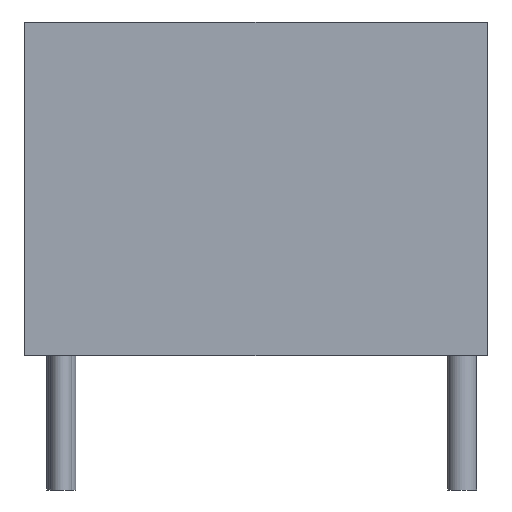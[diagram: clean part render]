
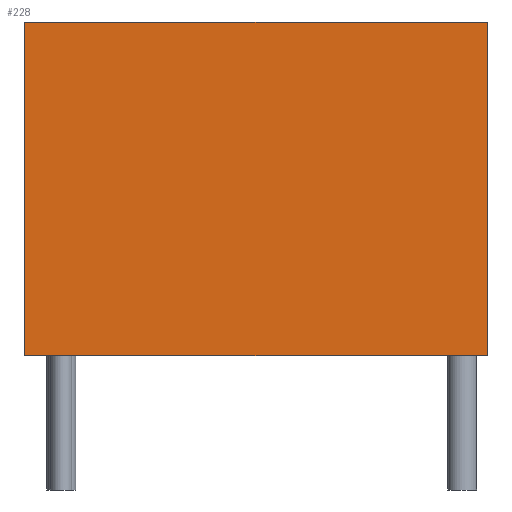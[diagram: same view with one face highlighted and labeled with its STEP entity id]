
A CAD part, front view. The second image highlights one B-rep face of the part: STEP entity #228.
In plain terms, the highlighted planar face has unit normal (0, -1, 0).
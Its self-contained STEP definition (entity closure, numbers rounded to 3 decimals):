
#59 = PLANE('',#60);
#60 = AXIS2_PLACEMENT_3D('',#61,#62,#63);
#61 = CARTESIAN_POINT('',(-1.4,-1.25,0.));
#62 = DIRECTION('',(-1.,0.,0.));
#63 = DIRECTION('',(0.,1.,0.));
#87 = PLANE('',#88);
#88 = AXIS2_PLACEMENT_3D('',#89,#90,#91);
#89 = CARTESIAN_POINT('',(7.4,3.8,12.7));
#90 = DIRECTION('',(-0.,-0.,-1.));
#91 = DIRECTION('',(-1.,0.,0.));
#115 = PLANE('',#116);
#116 = AXIS2_PLACEMENT_3D('',#117,#118,#119);
#117 = CARTESIAN_POINT('',(16.2,8.85,0.));
#118 = DIRECTION('',(1.,0.,-0.));
#119 = DIRECTION('',(0.,-1.,0.));
#141 = PLANE('',#142);
#142 = AXIS2_PLACEMENT_3D('',#143,#144,#145);
#143 = CARTESIAN_POINT('',(7.4,3.8,0.));
#144 = DIRECTION('',(-0.,-0.,-1.));
#145 = DIRECTION('',(-1.,0.,0.));
#158 = VERTEX_POINT('',#159);
#159 = CARTESIAN_POINT('',(16.2,-1.25,12.7));
#180 = EDGE_CURVE('',#181,#158,#183,.T.);
#181 = VERTEX_POINT('',#182);
#182 = CARTESIAN_POINT('',(16.2,-1.25,0.));
#183 = SURFACE_CURVE('',#184,(#188,#195),.PCURVE_S1.);
#184 = LINE('',#185,#186);
#185 = CARTESIAN_POINT('',(16.2,-1.25,0.));
#186 = VECTOR('',#187,1.);
#187 = DIRECTION('',(0.,0.,1.));
#188 = PCURVE('',#115,#189);
#189 = DEFINITIONAL_REPRESENTATION('',(#190),#194);
#190 = LINE('',#191,#192);
#191 = CARTESIAN_POINT('',(10.1,0.));
#192 = VECTOR('',#193,1.);
#193 = DIRECTION('',(0.,-1.));
#194 = ( GEOMETRIC_REPRESENTATION_CONTEXT(2) 
PARAMETRIC_REPRESENTATION_CONTEXT() REPRESENTATION_CONTEXT('2D SPACE',''
  ) );
#195 = PCURVE('',#196,#201);
#196 = PLANE('',#197);
#197 = AXIS2_PLACEMENT_3D('',#198,#199,#200);
#198 = CARTESIAN_POINT('',(16.2,-1.25,0.));
#199 = DIRECTION('',(0.,-1.,0.));
#200 = DIRECTION('',(-1.,0.,0.));
#201 = DEFINITIONAL_REPRESENTATION('',(#202),#206);
#202 = LINE('',#203,#204);
#203 = CARTESIAN_POINT('',(0.,-0.));
#204 = VECTOR('',#205,1.);
#205 = DIRECTION('',(0.,-1.));
#206 = ( GEOMETRIC_REPRESENTATION_CONTEXT(2) 
PARAMETRIC_REPRESENTATION_CONTEXT() REPRESENTATION_CONTEXT('2D SPACE',''
  ) );
#228 = ADVANCED_FACE('',(#229),#196,.T.);
#229 = FACE_BOUND('',#230,.T.);
#230 = EDGE_LOOP('',(#231,#232,#255,#278));
#231 = ORIENTED_EDGE('',*,*,#180,.T.);
#232 = ORIENTED_EDGE('',*,*,#233,.T.);
#233 = EDGE_CURVE('',#158,#234,#236,.T.);
#234 = VERTEX_POINT('',#235);
#235 = CARTESIAN_POINT('',(-1.4,-1.25,12.7));
#236 = SURFACE_CURVE('',#237,(#241,#248),.PCURVE_S1.);
#237 = LINE('',#238,#239);
#238 = CARTESIAN_POINT('',(16.2,-1.25,12.7));
#239 = VECTOR('',#240,1.);
#240 = DIRECTION('',(-1.,0.,0.));
#241 = PCURVE('',#196,#242);
#242 = DEFINITIONAL_REPRESENTATION('',(#243),#247);
#243 = LINE('',#244,#245);
#244 = CARTESIAN_POINT('',(0.,-12.7));
#245 = VECTOR('',#246,1.);
#246 = DIRECTION('',(1.,0.));
#247 = ( GEOMETRIC_REPRESENTATION_CONTEXT(2) 
PARAMETRIC_REPRESENTATION_CONTEXT() REPRESENTATION_CONTEXT('2D SPACE',''
  ) );
#248 = PCURVE('',#87,#249);
#249 = DEFINITIONAL_REPRESENTATION('',(#250),#254);
#250 = LINE('',#251,#252);
#251 = CARTESIAN_POINT('',(-8.8,-5.05));
#252 = VECTOR('',#253,1.);
#253 = DIRECTION('',(1.,0.));
#254 = ( GEOMETRIC_REPRESENTATION_CONTEXT(2) 
PARAMETRIC_REPRESENTATION_CONTEXT() REPRESENTATION_CONTEXT('2D SPACE',''
  ) );
#255 = ORIENTED_EDGE('',*,*,#256,.F.);
#256 = EDGE_CURVE('',#257,#234,#259,.T.);
#257 = VERTEX_POINT('',#258);
#258 = CARTESIAN_POINT('',(-1.4,-1.25,0.));
#259 = SURFACE_CURVE('',#260,(#264,#271),.PCURVE_S1.);
#260 = LINE('',#261,#262);
#261 = CARTESIAN_POINT('',(-1.4,-1.25,0.));
#262 = VECTOR('',#263,1.);
#263 = DIRECTION('',(0.,0.,1.));
#264 = PCURVE('',#196,#265);
#265 = DEFINITIONAL_REPRESENTATION('',(#266),#270);
#266 = LINE('',#267,#268);
#267 = CARTESIAN_POINT('',(17.6,0.));
#268 = VECTOR('',#269,1.);
#269 = DIRECTION('',(0.,-1.));
#270 = ( GEOMETRIC_REPRESENTATION_CONTEXT(2) 
PARAMETRIC_REPRESENTATION_CONTEXT() REPRESENTATION_CONTEXT('2D SPACE',''
  ) );
#271 = PCURVE('',#59,#272);
#272 = DEFINITIONAL_REPRESENTATION('',(#273),#277);
#273 = LINE('',#274,#275);
#274 = CARTESIAN_POINT('',(0.,0.));
#275 = VECTOR('',#276,1.);
#276 = DIRECTION('',(0.,-1.));
#277 = ( GEOMETRIC_REPRESENTATION_CONTEXT(2) 
PARAMETRIC_REPRESENTATION_CONTEXT() REPRESENTATION_CONTEXT('2D SPACE',''
  ) );
#278 = ORIENTED_EDGE('',*,*,#279,.F.);
#279 = EDGE_CURVE('',#181,#257,#280,.T.);
#280 = SURFACE_CURVE('',#281,(#285,#292),.PCURVE_S1.);
#281 = LINE('',#282,#283);
#282 = CARTESIAN_POINT('',(16.2,-1.25,0.));
#283 = VECTOR('',#284,1.);
#284 = DIRECTION('',(-1.,0.,0.));
#285 = PCURVE('',#196,#286);
#286 = DEFINITIONAL_REPRESENTATION('',(#287),#291);
#287 = LINE('',#288,#289);
#288 = CARTESIAN_POINT('',(0.,-0.));
#289 = VECTOR('',#290,1.);
#290 = DIRECTION('',(1.,0.));
#291 = ( GEOMETRIC_REPRESENTATION_CONTEXT(2) 
PARAMETRIC_REPRESENTATION_CONTEXT() REPRESENTATION_CONTEXT('2D SPACE',''
  ) );
#292 = PCURVE('',#141,#293);
#293 = DEFINITIONAL_REPRESENTATION('',(#294),#298);
#294 = LINE('',#295,#296);
#295 = CARTESIAN_POINT('',(-8.8,-5.05));
#296 = VECTOR('',#297,1.);
#297 = DIRECTION('',(1.,0.));
#298 = ( GEOMETRIC_REPRESENTATION_CONTEXT(2) 
PARAMETRIC_REPRESENTATION_CONTEXT() REPRESENTATION_CONTEXT('2D SPACE',''
  ) );
